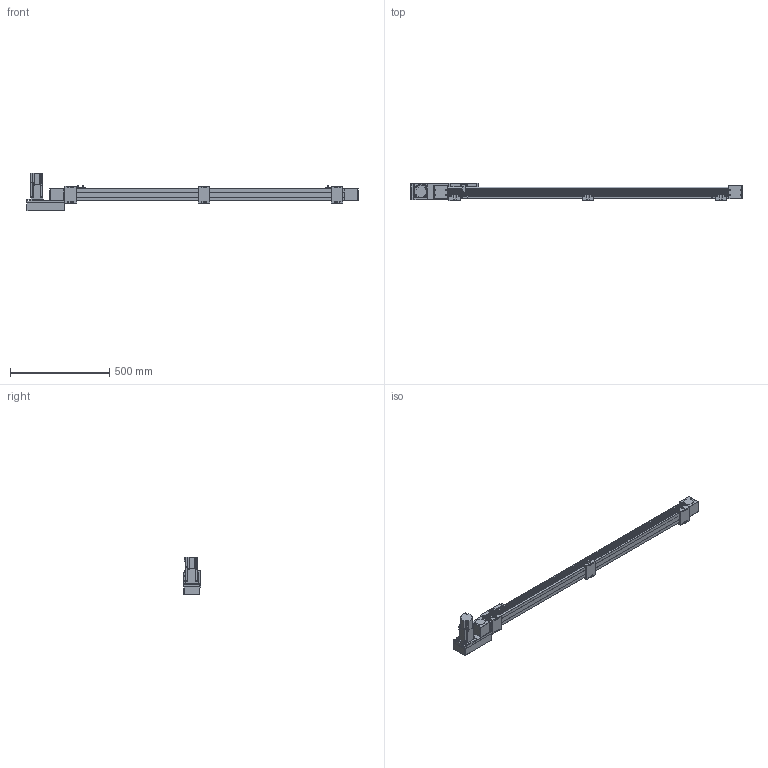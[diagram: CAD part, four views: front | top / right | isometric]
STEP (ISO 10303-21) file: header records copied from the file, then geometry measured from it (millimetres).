
FILE_DESCRIPTION(/* description */ ('STEP AP214'),/* implementation_level */ '2;1');
FILE_NAME(/* name */ 'SK60-P13-S1250-L-T40-C1-N(0)',/* time_stamp */ '2023-04-06T04:10:20+02:00',/* author */ ('License CC BY-ND 4.0'),/* organization */ ('CADENAS'),/* preprocessor_version */ 'ST-DEVELOPER v19.3',/* originating_system */ 'PARTsolutions',/* authorisation */ ' ');
FILE_SCHEMA (('AUTOMOTIVE_DESIGN {1 0 10303 214 3 1 1}'));
Length unit declared in the file: millimetre
Products named in the file (10): SK60-P13-S1250-L-T40-C1-N(0); PSC140-sensor; SK60-S450_seat; SK60-S450-BL-C1_slider; SK60_body3; SK60_body6; SK60-BL_body2; T40-p1; SK60-L_fb; SK60-S1250-L-C1_body
Assembly tree (17 placements, depth 2):
  SK60-P13-S1250-L-T40-C1-N(0)
    PSC140-sensor  x3
    SK60-S450_seat  x3
    SK60-S450-BL-C1_slider
    SK60_body3  x3
    SK60_body6  x2
    SK60-BL_body2  x2
    T40-p1
    SK60-L_fb
    SK60-S1250-L-C1_body
Bounding box: 1670.5 x 90 x 189.7 mm (x, y, z)
Volume: 6480114 mm3; surface area: 800215.6 mm2
Topology: 17 solids, 17 shells, 854 faces, 2146 edges, 1413 vertices
Faces by surface type: plane 548, cylinder 278, cone 26, torus 2
Full cylindrical faces by diameter (mm): 2.8 x3, 3.3 x4, 4 x2, 4.5 x30, 4.6 x3, 4.917 x20, 5 x6, 5.478 x4, 5.5 x23, 6.5 x6, 7 x2, 8 x4, 8.5 x4, 9.988 x4, 10 x12, 14 x1, 47 x3, 50 x2
Entity records: 18663 total; most frequent: DIRECTION 3186, CARTESIAN_POINT 3151, ORIENTED_EDGE 2940, EDGE_CURVE 1470, AXIS2_PLACEMENT_3D 1069, LINE 1048, VECTOR 1048, VERTEX_POINT 1034
